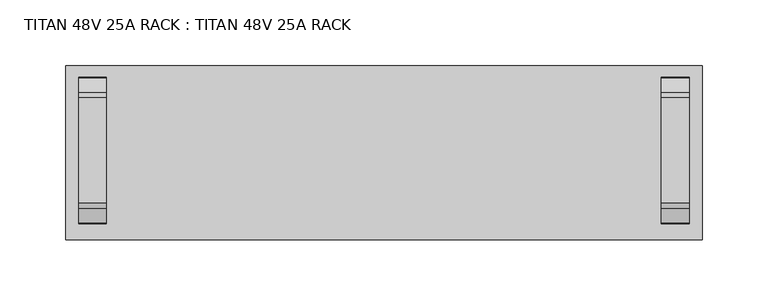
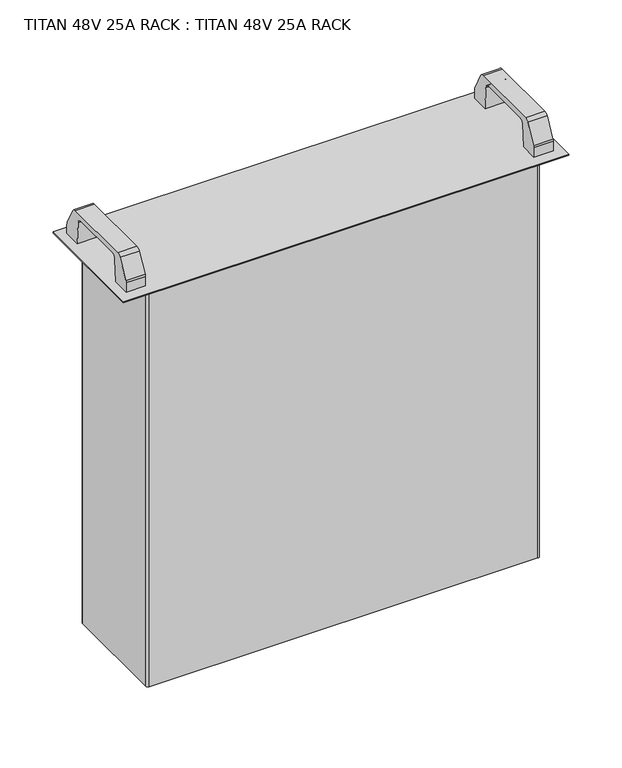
"""IFC4 building model written with IfcOpenShell, lengths in millimetres: proxy geometry, TITAN 48V 25A RACK : TITAN 48V 25A RACK."""

from ifc_helpers import new_model, si_unit, point, frame, frame_2d, origin, origin_with_axes, place, context, project, spatial, polyline, circle_curve, trimmed, segment, composite_curve, outline, extrude, source, transform, mapped, element, save
from ifc_brep_helpers import plane_surface, cylinder_surface, revolved_surface, advanced_brep


def titan_48v_25a_rack_titan_48v_25a_rack_15e581e9(model_context):
    return source(origin(), model_context, "Body", "SolidModel", [
        extrude(outline(composite_curve([segment(polyline([(50.9955561, 57.2738589), (42.372655, 65.2868494)]), True, "CONTINUOUS"), segment(trimmed(circle_curve(frame_2d((45.0973207, 68.2189036)), 4.0025923), [point((42.372655, 65.2868494))], [point((42.372655, 71.1509579))], False, "CARTESIAN"), True, "CONTINUOUS"), segment(polyline([(42.372655, 71.1509579), (50.9955561, 79.7738589), (80.996899, 79.7738589), (89.7253261, 71.0454318)]), True, "CONTINUOUS"), segment(trimmed(circle_curve(frame_2d((87.0952544, 68.2151716)), 3.8636317), [point((89.7253261, 71.0454318))], [point((89.7253261, 65.3849115))], False, "CARTESIAN"), True, "CONTINUOUS"), segment(polyline([(89.7253261, 65.3849115), (80.996899, 57.2738589), (50.9955561, 57.2738589)]), True, "CONTINUOUS")], self_intersect=False)), frame((0.0, 0.0, -459.2), z_axis=(0.0, 0.0, 1.0), x_axis=(1.0, 0.0, 0.0)), (0.0, 0.0, 1.0), 4.7),
        extrude(outline(composite_curve([segment(polyline([(-23.5597518, 101.5738589), (-42.909136, 101.5738589)]), True, "CONTINUOUS"), segment(trimmed(circle_curve(frame_2d((-42.909136, 103.5238589)), 1.95), [point((-42.909136, 101.5738589))], [point((-44.8295111, 103.185245))], False, "CARTESIAN"), True, "CONTINUOUS"), segment(polyline([(-44.8295111, 103.185245), (-45.534819, 107.185245)]), True, "CONTINUOUS"), segment(trimmed(circle_curve(frame_2d((-43.6144439, 107.5238589)), 1.95), [point((-45.534819, 107.185245))], [point((-43.6144439, 109.4738589))], False, "CARTESIAN"), True, "CONTINUOUS"), segment(polyline([(-43.6144439, 109.4738589), (-22.8544439, 109.4738589)]), True, "CONTINUOUS"), segment(trimmed(circle_curve(frame_2d((-22.8544439, 107.5238589)), 1.95), [point((-22.8544439, 109.4738589))], [point((-20.9340688, 107.185245))], False, "CARTESIAN"), True, "CONTINUOUS"), segment(polyline([(-20.9340688, 107.185245), (-21.6393767, 103.185245)]), True, "CONTINUOUS"), segment(trimmed(circle_curve(frame_2d((-23.5597518, 103.5238589)), 1.95), [point((-21.6393767, 103.185245))], [point((-23.5597518, 101.5738589))], False, "CARTESIAN"), True, "CONTINUOUS")], self_intersect=False)), frame((0.0, 0.0, -460.55), z_axis=(0.0, 0.0, 1.0), x_axis=(1.0, 0.0, 0.0)), (0.0, 0.0, 1.0), 4.55),
        extrude(outline(composite_curve([segment(trimmed(circle_curve(frame_2d((-128.1198843, 92.3957814)), 18.2), [point((-146.3198843, 92.3957814))], [point((-109.9198843, 92.3957814))], False, "CARTESIAN"), True, "CONTINUOUS"), segment(trimmed(circle_curve(frame_2d((-128.1198843, 92.3957814)), 18.2), [point((-109.9198843, 92.3957814))], [point((-146.3198843, 92.3957814))], False, "CARTESIAN"), True, "CONTINUOUS")], self_intersect=False)), frame((0.0, 0.0, -473.1704), z_axis=(0.0, 0.0, 1.0), x_axis=(1.0, 0.0, 0.0)), (0.0, 0.0, 1.0), 13.208),
        extrude(outline(composite_curve([segment(trimmed(circle_curve(frame_2d((-109.9018439, 110.7864589)), 3.9624), [point((-109.9018439, 114.7488589))], [point((-105.9394439, 110.7864589))], False, "CARTESIAN"), True, "CONTINUOUS"), segment(polyline([(-105.9394439, 110.7864589), (-105.9394439, 74.2612589)]), True, "CONTINUOUS"), segment(trimmed(circle_curve(frame_2d((-109.9018439, 74.2612589)), 3.9624), [point((-105.9394439, 74.2612589))], [point((-109.9018439, 70.2988589))], False, "CARTESIAN"), True, "CONTINUOUS"), segment(polyline([(-109.9018439, 70.2988589), (-146.4270439, 70.2988589)]), True, "CONTINUOUS"), segment(trimmed(circle_curve(frame_2d((-146.4270439, 74.2612589)), 3.9624), [point((-146.4270439, 70.2988589))], [point((-150.3894439, 74.2612589))], False, "CARTESIAN"), True, "CONTINUOUS"), segment(polyline([(-150.3894439, 74.2612589), (-150.3894439, 110.7864589)]), True, "CONTINUOUS"), segment(trimmed(circle_curve(frame_2d((-146.4270439, 110.7864589)), 3.9624), [point((-150.3894439, 110.7864589))], [point((-146.4270439, 114.7488589))], False, "CARTESIAN"), True, "CONTINUOUS"), segment(polyline([(-146.4270439, 114.7488589), (-109.9018439, 114.7488589)]), True, "CONTINUOUS")], self_intersect=False)), frame((0.0, 0.0, -459.9624), z_axis=(0.0, 0.0, 1.0), x_axis=(1.0, 0.0, 0.0)), (0.0, 0.0, 1.0), 5.4624),
        extrude(outline(composite_curve([segment(polyline([(80.996899, 77.7738589), (80.996899, 59.2738589)]), True, "CONTINUOUS"), segment(trimmed(circle_curve(frame_2d((78.996899, 59.2738589)), 2.0), [point((80.996899, 59.2738589))], [point((78.996899, 57.2738589))], False, "CARTESIAN"), True, "CONTINUOUS"), segment(polyline([(78.996899, 57.2738589), (52.9955561, 57.2738589)]), True, "CONTINUOUS"), segment(trimmed(circle_curve(frame_2d((52.9955561, 59.2738589)), 2.0), [point((52.9955561, 57.2738589))], [point((50.9955561, 59.2738589))], False, "CARTESIAN"), True, "CONTINUOUS"), segment(polyline([(50.9955561, 59.2738589), (50.9955561, 77.7738589)]), True, "CONTINUOUS"), segment(trimmed(circle_curve(frame_2d((52.9955561, 77.7738589)), 2.0), [point((50.9955561, 77.7738589))], [point((52.9955561, 79.7738589))], False, "CARTESIAN"), True, "CONTINUOUS"), segment(polyline([(52.9955561, 79.7738589), (78.996899, 79.7738589)]), True, "CONTINUOUS"), segment(trimmed(circle_curve(frame_2d((78.996899, 77.7738589)), 2.0), [point((78.996899, 79.7738589))], [point((80.996899, 77.7738589))], False, "CARTESIAN"), True, "CONTINUOUS")], self_intersect=False)), frame((0.0, 0.0, -461.2), z_axis=(0.0, 0.0, 1.0), x_axis=(1.0, 0.0, 0.0)), (0.0, 0.0, 1.0), 6.7),
        advanced_brep(
        [(-205.3644439, 128.2738589, -454.5), (-205.3644439, 126.7738589, -454.5), (-217.6644439, 126.7738589, -454.5), (-218.8644439, 125.5738589, -454.5), (-218.8644439, 7.2738589, -454.5), (-217.8644439, 6.2738589, -454.5), (204.6251979, 6.2738589, -454.5), (205.5355561, 7.2738589, -454.5), (205.5355561, 125.7738589, -454.5), (204.7431669, 126.7738589, -454.5), (192.0355561, 126.7738589, -454.5), (192.0355561, 128.2738589, -454.5), (204.7431669, 128.2738589, -454.5), (207.0355561, 125.6367669, -454.5), (207.050674, 7.2738589, -454.5), (204.550674, 4.7738589, -454.5), (-217.8644439, 4.7738589, -454.5), (-220.3644439, 7.2738589, -454.5), (-220.3644439, 125.5738589, -454.5), (-217.6644439, 128.2738589, -454.5), (-205.3644439, 128.2738589, 0.0), (-217.6644439, 128.2738589, 0.0), (-220.3644439, 125.5738589, 0.0), (-220.3644439, 7.2738589, 0.0), (-217.8644439, 4.7738589, 0.0), (204.550674, 4.7738589, 0.0), (207.050674, 7.2738589, 0.0), (207.050674, 125.7738589, 0.0), (204.7431669, 128.2738589, 0.0), (192.0355561, 128.2738589, 0.0), (192.0355561, 126.7738589, 0.0), (204.7431669, 126.7738589, 0.0), (205.5355561, 125.7738589, 0.0), (205.5355561, 7.2738589, 0.0), (204.6251979, 6.2738589, 0.0), (-217.8644439, 6.2738589, 0.0), (-218.8644439, 7.2738589, 0.0), (-218.8644439, 125.5738589, 0.0), (-217.6644439, 126.7738589, 0.0), (-205.3644439, 126.7738589, 0.0)],
        [
            (0, 1),
            (1, 2),
            (2, 3, circle_curve(frame((-217.6644439, 125.5738589, -454.5), z_axis=(0.0, 0.0, 1.0), x_axis=(1.0, 0.0, 0.0)), 1.2)),
            (3, 4),
            (4, 5, circle_curve(frame((-217.8644439, 7.2738589, -454.5), z_axis=(0.0, 0.0, 1.0), x_axis=(1.0, 0.0, 0.0)), 1.0)),
            (5, 6),
            (6, 7, circle_curve(frame((204.5311426, 7.2738589, -454.5), z_axis=(0.0, 0.0, 1.0), x_axis=(1.0, 0.0, 0.0)), 1.0044135)),
            (7, 8),
            (8, 9, circle_curve(frame((204.5083584, 125.7738589, -454.5), z_axis=(0.0, 0.0, 1.0), x_axis=(1.0, 0.0, 0.0)), 1.0271977)),
            (9, 10),
            (10, 11),
            (11, 12),
            (12, 13, circle_curve(frame((204.7431669, 125.9589411, -454.5), z_axis=(0.0, 0.0, -1.0), x_axis=(1.0, 0.0, 0.0)), 2.3149178)),
            (13, 14),
            (14, 15, circle_curve(frame((204.550674, 7.2738589, -454.5), z_axis=(0.0, 0.0, -1.0), x_axis=(1.0, 0.0, 0.0)), 2.5)),
            (15, 16),
            (16, 17, circle_curve(frame((-217.8644439, 7.2738589, -454.5), z_axis=(0.0, 0.0, -1.0), x_axis=(1.0, 0.0, 0.0)), 2.5)),
            (17, 18),
            (18, 19, circle_curve(frame((-217.6644439, 125.5738589, -454.5), z_axis=(0.0, 0.0, -1.0), x_axis=(1.0, 0.0, 0.0)), 2.7)),
            (19, 0),
            (20, 21),
            (21, 22, circle_curve(frame((-217.6644439, 125.5738589, 0.0), z_axis=(0.0, 0.0, 1.0), x_axis=(1.0, 0.0, 0.0)), 2.7)),
            (22, 23),
            (23, 24, circle_curve(frame((-217.8644439, 7.2738589, 0.0), z_axis=(0.0, 0.0, 1.0), x_axis=(1.0, 0.0, 0.0)), 2.5)),
            (24, 25),
            (25, 26, circle_curve(frame((204.550674, 7.2738589, 0.0), z_axis=(0.0, 0.0, 1.0), x_axis=(1.0, 0.0, 0.0)), 2.5)),
            (26, 27),
            (27, 28, circle_curve(frame((204.7431669, 125.9589411, 0.0), z_axis=(0.0, 0.0, 1.0), x_axis=(1.0, 0.0, 0.0)), 2.3149178)),
            (28, 29),
            (29, 30),
            (30, 31),
            (31, 32, circle_curve(frame((204.5083584, 125.7738589, 0.0), z_axis=(0.0, 0.0, -1.0), x_axis=(1.0, 0.0, 0.0)), 1.0271977)),
            (32, 33),
            (33, 34, circle_curve(frame((204.5311426, 7.2738589, 0.0), z_axis=(0.0, 0.0, -1.0), x_axis=(1.0, 0.0, 0.0)), 1.0044135)),
            (34, 35),
            (35, 36, circle_curve(frame((-217.8644439, 7.2738589, 0.0), z_axis=(0.0, 0.0, -1.0), x_axis=(1.0, 0.0, 0.0)), 1.0)),
            (36, 37),
            (37, 38, circle_curve(frame((-217.6644439, 125.5738589, 0.0), z_axis=(0.0, 0.0, -1.0), x_axis=(1.0, 0.0, 0.0)), 1.2)),
            (38, 39),
            (39, 20),
            (0, 20),
            (39, 1),
            (38, 2),
            (37, 3),
            (36, 4),
            (35, 5),
            (34, 6),
            (33, 7),
            (32, 8),
            (31, 9),
            (30, 10),
            (29, 11),
            (28, 12),
            (27, 13),
            (26, 14),
            (25, 15),
            (24, 16),
            (23, 17),
            (22, 18),
            (21, 19),
        ],
        [
            plane_surface(frame((-205.3644439, 126.7738589, -454.5), z_axis=(0.0, 0.0, -1.0), x_axis=(0.0, -1.0, 0.0))),
            plane_surface(frame((-205.3644439, 126.7738589, 0.0), z_axis=(0.0, 0.0, 1.0), x_axis=(0.0, 1.0, 0.0))),
            plane_surface(frame((-205.3644439, 128.2738589, -454.5), z_axis=(1.0, 0.0, 0.0), x_axis=(0.0, 0.0, 1.0))),
            plane_surface(frame((-205.3644439, 126.7738589, -454.5), z_axis=(0.0, -1.0, 0.0), x_axis=(0.0, 0.0, 1.0))),
            revolved_surface(polyline([(-216.46444390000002, 125.5738589, 0.0), (-216.46444390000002, 125.5738589, -454.5)]), (-217.6644439, 125.5738589, 0.0), (0.0, 0.0, 1.0)),
            plane_surface(frame((-218.8644439, 125.5738589, -454.5), z_axis=(1.0, 0.0, 0.0), x_axis=(0.0, 0.0, 1.0))),
            revolved_surface(polyline([(-216.8644439, 7.2738589, 0.0), (-216.8644439, 7.2738589, -454.5)]), (-217.8644439, 7.2738589, 0.0), (0.0, 0.0, 1.0)),
            plane_surface(frame((-217.8644439, 6.2738589, -454.5), z_axis=(0.0, 1.0, 0.0), x_axis=(0.0, 0.0, 1.0))),
            revolved_surface(polyline([(205.5355561, 7.2738589, 0.0), (205.5355561, 7.2738589, -454.5)]), (204.5311426, 7.2738589, 0.0), (0.0, 0.0, 1.0)),
            plane_surface(frame((205.5355561, 7.2738589, -454.5), z_axis=(-1.0, 0.0, 0.0), x_axis=(0.0, 0.0, 1.0))),
            revolved_surface(polyline([(205.53555609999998, 125.7738589, 0.0), (205.53555609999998, 125.7738589, -454.5)]), (204.5083584, 125.7738589, 0.0), (0.0, 0.0, 1.0)),
            plane_surface(frame((204.7431669, 126.7738589, -454.5), z_axis=(0.0, -1.0, 0.0), x_axis=(0.0, 0.0, 1.0))),
            plane_surface(frame((192.0355561, 126.7738589, -454.5), z_axis=(-1.0, 0.0, 0.0), x_axis=(0.0, 0.0, 1.0))),
            plane_surface(frame((192.0355561, 128.2738589, -454.5), z_axis=(0.0, 1.0, 0.0), x_axis=(0.0, 0.0, 1.0))),
            cylinder_surface(frame((204.7431669, 125.9589411, 0.0), z_axis=(0.0, 0.0, -1.0), x_axis=(1.0, 0.0, 0.0)), 2.3149178),
            plane_surface(frame((207.050674, 125.7738589, -454.5), z_axis=(1.0, 0.0, 0.0), x_axis=(0.0, 0.0, 1.0))),
            cylinder_surface(frame((204.550674, 7.2738589, 0.0), z_axis=(0.0, 0.0, -1.0), x_axis=(1.0, 0.0, 0.0)), 2.5),
            plane_surface(frame((204.550674, 4.7738589, -454.5), z_axis=(0.0, -1.0, 0.0), x_axis=(0.0, 0.0, 1.0))),
            cylinder_surface(frame((-217.8644439, 7.2738589, 0.0), z_axis=(0.0, 0.0, -1.0), x_axis=(1.0, 0.0, 0.0)), 2.5),
            plane_surface(frame((-220.3644439, 7.2738589, -454.5), z_axis=(-1.0, 0.0, 0.0), x_axis=(0.0, 0.0, 1.0))),
            cylinder_surface(frame((-217.6644439, 125.5738589, 0.0), z_axis=(0.0, 0.0, -1.0), x_axis=(1.0, 0.0, 0.0)), 2.7),
            plane_surface(frame((-217.6644439, 128.2738589, -454.5), z_axis=(0.0, 1.0, 0.0), x_axis=(0.0, 0.0, 1.0))),
        ],
        [
            (0, [[1, 2, 3, 4, 5, 6, 7, 8, 9, 10, 11, 12, 13, 14, 15, 16, 17, 18, 19, 20]]),
            (1, [[21, 22, 23, 24, 25, 26, 27, 28, 29, 30, 31, 32, 33, 34, 35, 36, 37, 38, 39, 40]]),
            (2, [[-1, 41, -40, 42]]),
            (3, [[-2, -42, -39, 43]]),
            (4, [[-3, -43, -38, 44]]),
            (5, [[-4, -44, -37, 45]]),
            (6, [[-5, -45, -36, 46]]),
            (7, [[-6, -46, -35, 47]]),
            (8, [[-7, -47, -34, 48]]),
            (9, [[-8, -48, -33, 49]]),
            (10, [[-9, -49, -32, 50]]),
            (11, [[-10, -50, -31, 51]]),
            (12, [[-11, -51, -30, 52]]),
            (13, [[-12, -52, -29, 53]]),
            (14, [[-13, -53, -28, 54]]),
            (15, [[-14, -54, -27, 55]]),
            (16, [[-15, -55, -26, 56]]),
            (17, [[-16, -56, -25, 57]]),
            (18, [[-17, -57, -24, 58]]),
            (19, [[-18, -58, -23, 59]]),
            (20, [[-19, -59, -22, 60]]),
            (21, [[-20, -60, -21, -41]]),
        ],
    ),
        extrude(outline(polyline([(232.8355561, 128.2738589), (233.8355561, 127.2738589), (233.8355561, 5.7738589), (232.8355561, 4.7738589), (209.5355561, 4.7738589), (208.5355561, 5.7738589), (208.5355561, 7.2738589), (207.050674, 7.2738589), (207.050674, 125.7738589), (208.5355561, 125.7738589), (208.5355561, 127.2738589), (209.5355561, 128.2738589), (232.8355561, 128.2738589)])), frame((0.0, 0.0, -1.5), z_axis=(0.0, 0.0, 1.0), x_axis=(1.0, 0.0, 0.0)), (0.0, 0.0, 1.0), 1.5),
        extrude(outline(polyline([(-246.1644439, 128.2738589), (-222.8644439, 128.2738589), (-221.8644439, 127.2738589), (-221.8644439, 125.7738589), (-220.3644439, 125.7738589), (-220.3644439, 7.2738589), (-221.8644439, 7.2738589), (-221.8644439, 5.7738589), (-222.8644439, 4.7738589), (-246.1644439, 4.7738589), (-247.1644439, 5.7738589), (-247.1644439, 127.2738589), (-246.1644439, 128.2738589)])), frame((0.0, 0.0, -1.5), z_axis=(0.0, 0.0, 1.0), x_axis=(1.0, 0.0, 0.0)), (0.0, 0.0, 1.0), 1.5),
        extrude(outline(polyline([(-219.1644439, 126.7738589), (205.8355561, 126.7738589), (205.8355561, 6.2738589), (-219.1644439, 6.2738589), (-219.1644439, 126.7738589)])), frame((0.0, 0.0, -454.5), z_axis=(0.0, 0.0, 1.0), x_axis=(1.0, 0.0, 0.0)), (0.0, 0.0, 1.0), 454.5),
        extrude(outline(composite_curve([segment(polyline([(112.1853438, 34.6786845), (122.8857719, 14.6024723)]), True, "CONTINUOUS"), segment(trimmed(circle_curve(frame_2d((118.473379, 12.2507093)), 5.0), [point((122.8857719, 14.6024723))], [point((123.473379, 12.2507093))], False, "CARTESIAN"), True, "CONTINUOUS"), segment(polyline([(123.473379, 12.2507093), (123.473379, 1.5), (103.973379, 1.5), (102.2312369, 26.4137941)]), True, "CONTINUOUS"), segment(trimmed(circle_curve(frame_2d((97.2181094, 26.4137941)), 5.0131275), [point((102.2312369, 26.4137941))], [point((97.2181094, 31.4269215))], True, "CARTESIAN"), True, "CONTINUOUS"), segment(polyline([(97.2181094, 31.4269215), (38.3296084, 31.4269215)]), True, "CONTINUOUS"), segment(trimmed(circle_curve(frame_2d((38.3296084, 26.4269215)), 5.0), [point((38.3296084, 31.4269215))], [point((33.3417882, 26.7757039))], True, "CARTESIAN"), True, "CONTINUOUS"), segment(polyline([(33.3417882, 26.7757039), (31.5743388, 1.5), (12.0743388, 1.5), (12.0743388, 12.2507093)]), True, "CONTINUOUS"), segment(trimmed(circle_curve(frame_2d((17.0743388, 12.2507093)), 5.0), [point((12.0743388, 12.2507093))], [point((12.6619459, 14.6024723))], False, "CARTESIAN"), True, "CONTINUOUS"), segment(polyline([(12.6619459, 14.6024723), (23.362374, 34.6786845)]), True, "CONTINUOUS"), segment(trimmed(circle_curve(frame_2d((27.7747669, 32.3269215)), 5.0), [point((23.362374, 34.6786845))], [point((27.7747669, 37.3269215))], False, "CARTESIAN"), True, "CONTINUOUS"), segment(polyline([(27.7747669, 37.3269215), (107.7729509, 37.3269215)]), True, "CONTINUOUS"), segment(trimmed(circle_curve(frame_2d((107.7729509, 32.3269215)), 5.0), [point((107.7729509, 37.3269215))], [point((112.1853438, 34.6786845))], False, "CARTESIAN"), True, "CONTINUOUS")], self_intersect=False)), frame((204.3355561, 0.0, 0.0), z_axis=(1.0, 0.0, 0.0), x_axis=(0.0, 1.0, 0.0)), (0.0, 0.0, 1.0), 21.0),
        extrude(outline(composite_curve([segment(polyline([(112.1853438, 34.6786845), (122.8857719, 14.6024723)]), True, "CONTINUOUS"), segment(trimmed(circle_curve(frame_2d((118.473379, 12.2507093)), 5.0), [point((122.8857719, 14.6024723))], [point((123.473379, 12.2507093))], False, "CARTESIAN"), True, "CONTINUOUS"), segment(polyline([(123.473379, 12.2507093), (123.473379, 1.5), (103.973379, 1.5), (102.2312369, 26.4137941)]), True, "CONTINUOUS"), segment(trimmed(circle_curve(frame_2d((97.2181094, 26.4137941)), 5.0131275), [point((102.2312369, 26.4137941))], [point((97.2181094, 31.4269215))], True, "CARTESIAN"), True, "CONTINUOUS"), segment(polyline([(97.2181094, 31.4269215), (38.3296084, 31.4269215)]), True, "CONTINUOUS"), segment(trimmed(circle_curve(frame_2d((38.3296084, 26.4269215)), 5.0), [point((38.3296084, 31.4269215))], [point((33.3417882, 26.7757039))], True, "CARTESIAN"), True, "CONTINUOUS"), segment(polyline([(33.3417882, 26.7757039), (31.5743388, 1.5), (12.0743388, 1.5), (12.0743388, 12.2507093)]), True, "CONTINUOUS"), segment(trimmed(circle_curve(frame_2d((17.0743388, 12.2507093)), 5.0), [point((12.0743388, 12.2507093))], [point((12.6619459, 14.6024723))], False, "CARTESIAN"), True, "CONTINUOUS"), segment(polyline([(12.6619459, 14.6024723), (23.362374, 34.6786845)]), True, "CONTINUOUS"), segment(trimmed(circle_curve(frame_2d((27.7747669, 32.3269215)), 5.0), [point((23.362374, 34.6786845))], [point((27.7747669, 37.3269215))], False, "CARTESIAN"), True, "CONTINUOUS"), segment(polyline([(27.7747669, 37.3269215), (107.7729509, 37.3269215)]), True, "CONTINUOUS"), segment(trimmed(circle_curve(frame_2d((107.7729509, 32.3269215)), 5.0), [point((107.7729509, 37.3269215))], [point((112.1853438, 34.6786845))], False, "CARTESIAN"), True, "CONTINUOUS")], self_intersect=False)), frame((-238.6644439, 0.0, 0.0), z_axis=(1.0, 0.0, 0.0), x_axis=(0.0, 1.0, 0.0)), (0.0, 0.0, 1.0), 20.8),
        extrude(outline(composite_curve([segment(polyline([(112.1853438, 34.6786845), (122.8857719, 14.6024723)]), True, "CONTINUOUS"), segment(trimmed(circle_curve(frame_2d((118.473379, 12.2507093)), 5.0), [point((122.8857719, 14.6024723))], [point((123.473379, 12.2507093))], False, "CARTESIAN"), True, "CONTINUOUS"), segment(polyline([(123.473379, 12.2507093), (123.473379, 1.5), (103.973379, 1.5), (102.2312369, 26.4137941)]), True, "CONTINUOUS"), segment(trimmed(circle_curve(frame_2d((97.2181094, 26.4137941)), 5.0131275), [point((102.2312369, 26.4137941))], [point((97.2181094, 31.4269215))], True, "CARTESIAN"), True, "CONTINUOUS"), segment(polyline([(97.2181094, 31.4269215), (38.3296084, 31.4269215)]), True, "CONTINUOUS"), segment(trimmed(circle_curve(frame_2d((38.3296084, 26.4269215)), 5.0), [point((38.3296084, 31.4269215))], [point((33.3417882, 26.7757039))], True, "CARTESIAN"), True, "CONTINUOUS"), segment(polyline([(33.3417882, 26.7757039), (31.5743388, 1.5), (12.0743388, 1.5), (12.0743388, 12.2507093)]), True, "CONTINUOUS"), segment(trimmed(circle_curve(frame_2d((17.0743388, 12.2507093)), 5.0), [point((12.0743388, 12.2507093))], [point((12.6619459, 14.6024723))], False, "CARTESIAN"), True, "CONTINUOUS"), segment(polyline([(12.6619459, 14.6024723), (23.362374, 34.6786845)]), True, "CONTINUOUS"), segment(trimmed(circle_curve(frame_2d((27.7747669, 32.3269215)), 5.0), [point((23.362374, 34.6786845))], [point((27.7747669, 37.3269215))], False, "CARTESIAN"), True, "CONTINUOUS"), segment(polyline([(27.7747669, 37.3269215), (107.7729509, 37.3269215)]), True, "CONTINUOUS"), segment(trimmed(circle_curve(frame_2d((107.7729509, 32.3269215)), 5.0), [point((107.7729509, 37.3269215))], [point((112.1853438, 34.6786845))], False, "CARTESIAN"), True, "CONTINUOUS")], self_intersect=False)), frame((-238.6644439, 0.0, 0.0), z_axis=(1.0, 0.0, 0.0), x_axis=(0.0, 1.0, 0.0)), (0.0, 0.0, 1.0), 20.8),
        extrude(outline(polyline([(-248.6243636, 132.2738589), (235.3433686, 132.2738589), (235.3433686, 0.0), (-248.6243636, 0.0), (-248.6243636, 132.2738589)])), origin_with_axes(), (0.0, 0.0, 1.0), 1.5),
    ])


if __name__ == "__main__":
    model = new_model("IFC4")
    model_context = context("Model", 3, world=origin())
    ifc_project = project(units=[si_unit("LENGTHUNIT", "METRE", prefix="MILLI")], contexts=[model_context])
    site = spatial("IfcSite", under=ifc_project)
    building = spatial("IfcBuilding", under=site)
    placement = place(None, origin())
    titan_48v_25a_rack_titan_48v_25a_rack_shape = titan_48v_25a_rack_titan_48v_25a_rack_15e581e9(model_context)
    element("IfcBuildingElementProxy", 1, Name="TITAN 48V 25A RACK : TITAN 48V 25A RACK", ObjectType="TITAN 48V 25A RACK : TITAN 48V 25A RACK", at=placement, inside=building, context=model_context, shape_type="MappedRepresentation", body=[
        mapped(titan_48v_25a_rack_titan_48v_25a_rack_shape, transform((0.0, 0.0, 0.0), x_axis=(1.0, 0.0, 0.0), y_axis=(0.0, 1.0, 0.0), z_axis=(0.0, 0.0, 1.0))),
    ])
    save(model, "model.ifc")
